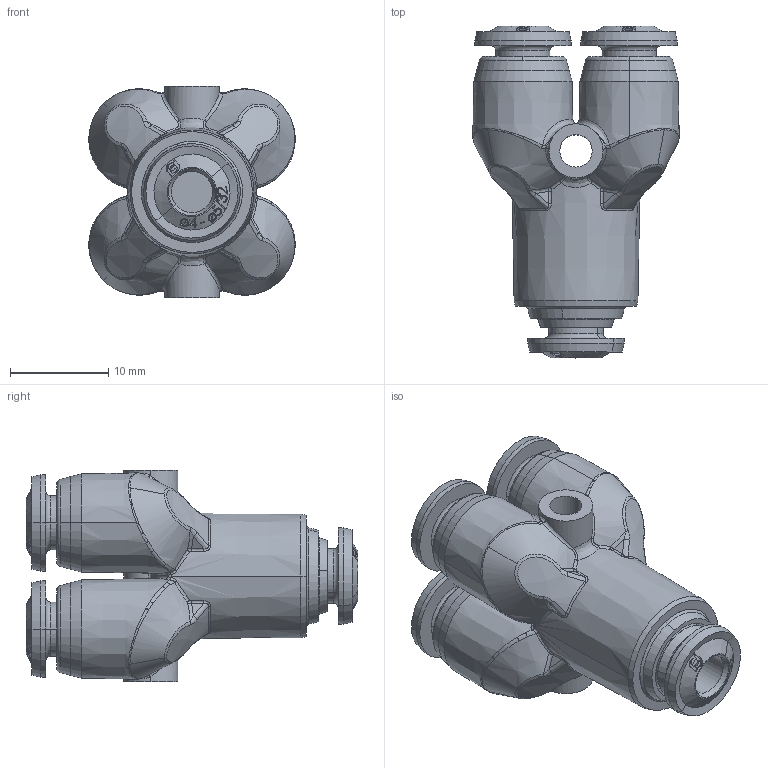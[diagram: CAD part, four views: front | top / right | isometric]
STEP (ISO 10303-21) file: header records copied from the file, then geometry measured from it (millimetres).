
FILE_DESCRIPTION (( 'STEP AP214' ), '1' );
FILE_NAME ('5533000001.step', '2012-10-02T17:47:38', ( '' ), ( '' ), 'SwSTEP 2.0', 'SolidWorks 2012', '' );
FILE_SCHEMA (( 'AUTOMOTIVE_DESIGN' ));
Length unit declared in the file: millimetre
Products named in the file (1): 5533000001
Bounding box: 21 x 33.76 x 21.5 mm (x, y, z)
Volume: 6048.4 mm3; surface area: 4186.4 mm2
Topology: 1 solids, 12 shells, 1171 faces, 2964 edges, 1906 vertices
Faces by surface type: bspline 762, cone 194, cylinder 98, plane 78, torus 39
Entity records: 75914 total; most frequent: CARTESIAN_POINT 41954, ORIENTED_EDGE 5920, EDGE_CURVE 2960, B_SPLINE_CURVE_WITH_KNOTS 2232, DIRECTION 1993, VERTEX_POINT 1906, EDGE_LOOP 1268, ADVANCED_FACE 1171
